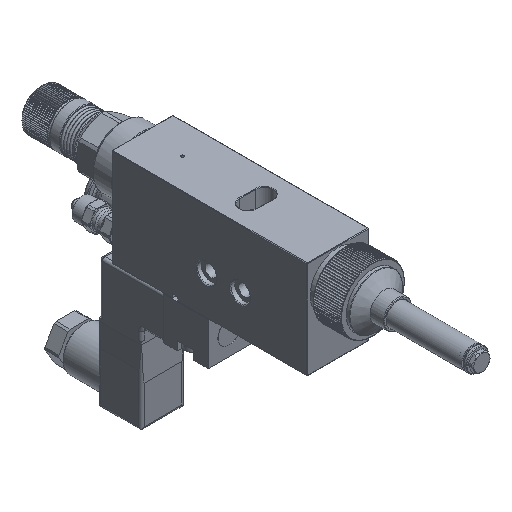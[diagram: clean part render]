
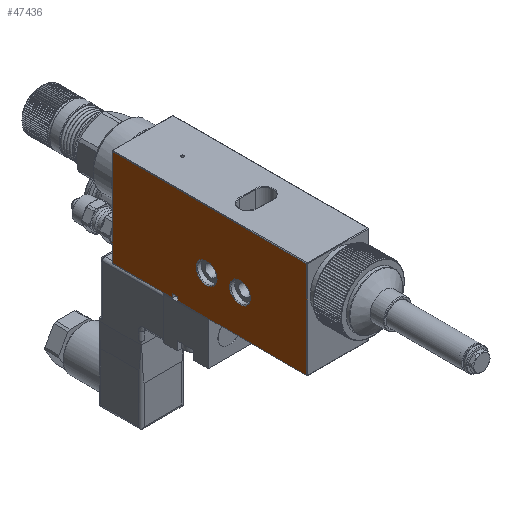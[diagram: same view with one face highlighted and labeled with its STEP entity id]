
A CAD part, isometric view. The second image highlights one B-rep face of the part: STEP entity #47436.
In plain terms, the highlighted planar face has unit normal (-1, 0, 0).
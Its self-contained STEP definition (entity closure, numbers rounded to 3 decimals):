
#288 = VERTEX_POINT ( 'NONE', #50065 ) ;
#332 = CARTESIAN_POINT ( 'NONE',  ( -11., 55.3, -23. ) ) ;
#433 = VERTEX_POINT ( 'NONE', #27913 ) ;
#1294 = DIRECTION ( 'NONE',  ( 0., -1., 0. ) ) ;
#2339 = VERTEX_POINT ( 'NONE', #14062 ) ;
#2386 = ORIENTED_EDGE ( 'NONE', *, *, #7185, .T. ) ;
#4737 = CARTESIAN_POINT ( 'NONE',  ( -11., 10.5, 5.2 ) ) ;
#4952 = DIRECTION ( 'NONE',  ( 1., 0., 0. ) ) ;
#6402 = VECTOR ( 'NONE', #18686, 1000. ) ;
#6911 = VERTEX_POINT ( 'NONE', #29058 ) ;
#7185 = EDGE_CURVE ( 'NONE', #38475, #38475, #13574, .T. ) ;
#7205 = AXIS2_PLACEMENT_3D ( 'NONE', #4737, #51759, #23716 ) ;
#7850 = CARTESIAN_POINT ( 'NONE',  ( -11., 53.3, -23. ) ) ;
#8513 = CARTESIAN_POINT ( 'NONE',  ( -11., 76.8, 10.3 ) ) ;
#8548 = ORIENTED_EDGE ( 'NONE', *, *, #38417, .T. ) ;
#8958 = VECTOR ( 'NONE', #34717, 1000. ) ;
#9103 = FACE_BOUND ( 'NONE', #10717, .T. ) ;
#9630 = AXIS2_PLACEMENT_3D ( 'NONE', #15546, #48233, #24272 ) ;
#10717 = EDGE_LOOP ( 'NONE', ( #2386 ) ) ;
#11725 = VECTOR ( 'NONE', #1294, 1000. ) ;
#12979 = DIRECTION ( 'NONE',  ( 0., 0., 1. ) ) ;
#13274 = CARTESIAN_POINT ( 'NONE',  ( -11., 31., -6.75 ) ) ;
#13445 = CARTESIAN_POINT ( 'NONE',  ( -11., 77., 10.3 ) ) ;
#13574 = CIRCLE ( 'NONE', #9630, 3.75 ) ;
#14062 = CARTESIAN_POINT ( 'NONE',  ( -11., 55.3, -24.3 ) ) ;
#14852 = ORIENTED_EDGE ( 'NONE', *, *, #29987, .F. ) ;
#15546 = CARTESIAN_POINT ( 'NONE',  ( -11., 43., -10.5 ) ) ;
#15741 = CARTESIAN_POINT ( 'NONE',  ( -11., 7.2, 10.5 ) ) ;
#17168 = CARTESIAN_POINT ( 'NONE',  ( -11., 76.8, 10.5 ) ) ;
#18686 = DIRECTION ( 'NONE',  ( 0., -1., 0. ) ) ;
#19049 = FACE_OUTER_BOUND ( 'NONE', #57084, .T. ) ;
#20029 = VECTOR ( 'NONE', #12979, 1000. ) ;
#20397 = VECTOR ( 'NONE', #20919, 1000. ) ;
#20919 = DIRECTION ( 'NONE',  ( 0., -1., 0. ) ) ;
#21997 = ORIENTED_EDGE ( 'NONE', *, *, #45069, .T. ) ;
#22331 = CARTESIAN_POINT ( 'NONE',  ( -11., 55.3, -23. ) ) ;
#22858 = ORIENTED_EDGE ( 'NONE', *, *, #55370, .T. ) ;
#23445 = EDGE_CURVE ( 'NONE', #36121, #2339, #32686, .T. ) ;
#23716 = DIRECTION ( 'NONE',  ( 0., 0., 1. ) ) ;
#24272 = DIRECTION ( 'NONE',  ( 0., 0., 1. ) ) ;
#24304 = VERTEX_POINT ( 'NONE', #8513 ) ;
#25312 = VECTOR ( 'NONE', #44917, 1000. ) ;
#25913 = LINE ( 'NONE', #7850, #25312 ) ;
#27903 = LINE ( 'NONE', #22331, #20029 ) ;
#27913 = CARTESIAN_POINT ( 'NONE',  ( -11., 7.2, 10.3 ) ) ;
#28784 = EDGE_CURVE ( 'NONE', #24304, #433, #47378, .T. ) ;
#29058 = CARTESIAN_POINT ( 'NONE',  ( -11., 53.3, -24.3 ) ) ;
#29987 = EDGE_CURVE ( 'NONE', #36121, #24304, #59840, .T. ) ;
#30239 = LINE ( 'NONE', #30847, #20397 ) ;
#30847 = CARTESIAN_POINT ( 'NONE',  ( -11., 10.5, -23. ) ) ;
#31475 = DIRECTION ( 'NONE',  ( 0., 0., 1. ) ) ;
#31546 = ORIENTED_EDGE ( 'NONE', *, *, #51179, .F. ) ;
#32686 = LINE ( 'NONE', #36755, #6402 ) ;
#33110 = AXIS2_PLACEMENT_3D ( 'NONE', #37655, #4952, #46665 ) ;
#34717 = DIRECTION ( 'NONE',  ( 0., 0., 1. ) ) ;
#36121 = VERTEX_POINT ( 'NONE', #47226 ) ;
#36324 = DIRECTION ( 'NONE',  ( 0., 1., 0. ) ) ;
#36755 = CARTESIAN_POINT ( 'NONE',  ( -11., 10.5, -24.3 ) ) ;
#37655 = CARTESIAN_POINT ( 'NONE',  ( -11., 31., -10.5 ) ) ;
#38061 = PLANE ( 'NONE',  #7205 ) ;
#38417 = EDGE_CURVE ( 'NONE', #51572, #51572, #54050, .T. ) ;
#38475 = VERTEX_POINT ( 'NONE', #57790 ) ;
#40274 = ORIENTED_EDGE ( 'NONE', *, *, #28784, .F. ) ;
#41520 = VERTEX_POINT ( 'NONE', #332 ) ;
#41521 = VERTEX_POINT ( 'NONE', #53271 ) ;
#43653 = EDGE_LOOP ( 'NONE', ( #8548 ) ) ;
#44917 = DIRECTION ( 'NONE',  ( 0., 0., -1. ) ) ;
#45069 = EDGE_CURVE ( 'NONE', #41521, #433, #49062, .T. ) ;
#45675 = LINE ( 'NONE', #60624, #57810 ) ;
#45943 = EDGE_CURVE ( 'NONE', #2339, #41520, #27903, .T. ) ;
#46665 = DIRECTION ( 'NONE',  ( 0., 0., 1. ) ) ;
#47226 = CARTESIAN_POINT ( 'NONE',  ( -11., 76.8, -24.3 ) ) ;
#47378 = LINE ( 'NONE', #13445, #11725 ) ;
#47436 = ADVANCED_FACE ( 'NONE', ( #50228, #9103, #19049 ), #38061, .T. ) ;
#48233 = DIRECTION ( 'NONE',  ( 1., 0., 0. ) ) ;
#49062 = LINE ( 'NONE', #15741, #8958 ) ;
#49637 = ORIENTED_EDGE ( 'NONE', *, *, #23445, .T. ) ;
#50065 = CARTESIAN_POINT ( 'NONE',  ( -11., 53.3, -23. ) ) ;
#50228 = FACE_BOUND ( 'NONE', #43653, .T. ) ;
#51179 = EDGE_CURVE ( 'NONE', #41521, #6911, #45675, .T. ) ;
#51572 = VERTEX_POINT ( 'NONE', #13274 ) ;
#51759 = DIRECTION ( 'NONE',  ( -1., 0., 0. ) ) ;
#53271 = CARTESIAN_POINT ( 'NONE',  ( -11., 7.2, -24.3 ) ) ;
#54050 = CIRCLE ( 'NONE', #33110, 3.75 ) ;
#55370 = EDGE_CURVE ( 'NONE', #288, #6911, #25913, .T. ) ;
#55740 = VECTOR ( 'NONE', #31475, 1000. ) ;
#56660 = EDGE_CURVE ( 'NONE', #41520, #288, #30239, .T. ) ;
#57084 = EDGE_LOOP ( 'NONE', ( #61161, #60094, #22858, #31546, #21997, #40274, #14852, #49637 ) ) ;
#57790 = CARTESIAN_POINT ( 'NONE',  ( -11., 43., -6.75 ) ) ;
#57810 = VECTOR ( 'NONE', #36324, 1000. ) ;
#59840 = LINE ( 'NONE', #17168, #55740 ) ;
#60094 = ORIENTED_EDGE ( 'NONE', *, *, #56660, .T. ) ;
#60624 = CARTESIAN_POINT ( 'NONE',  ( -11., 77., -24.3 ) ) ;
#61161 = ORIENTED_EDGE ( 'NONE', *, *, #45943, .T. ) ;
